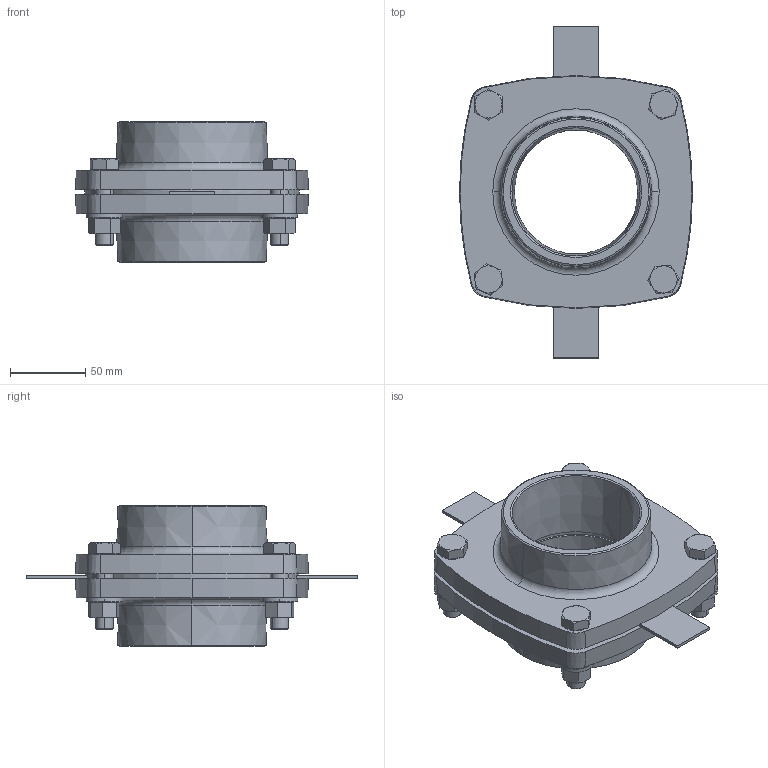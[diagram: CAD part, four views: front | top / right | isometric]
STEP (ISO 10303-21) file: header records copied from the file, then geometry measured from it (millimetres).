
FILE_DESCRIPTION (( 'STEP AP214' ), '1' );
FILE_NAME ('KP_F16-90FF.step', '2012-09-24T15:01:54', ( '' ), ( '' ), 'SwSTEP 2.0', 'SolidWorks 2012', '' );
FILE_SCHEMA (( 'AUTOMOTIVE_DESIGN' ));
Length unit declared in the file: millimetre
Products named in the file (1): KP_F16-90FF
Bounding box: 154.3 x 220 x 93 mm (x, y, z)
Volume: 633697.1 mm3; surface area: 170078.5 mm2
Topology: 15 solids, 15 shells, 368 faces, 800 edges, 468 vertices
Faces by surface type: cone 140, plane 140, cylinder 76, torus 12
Entity records: 14580 total; most frequent: CARTESIAN_POINT 2197, DIRECTION 1814, ORIENTED_EDGE 1600, EDGE_CURVE 800, AXIS2_PLACEMENT_3D 741, VERTEX_POINT 468, EDGE_LOOP 412, UNCERTAINTY_MEASURE_WITH_UNIT 385
